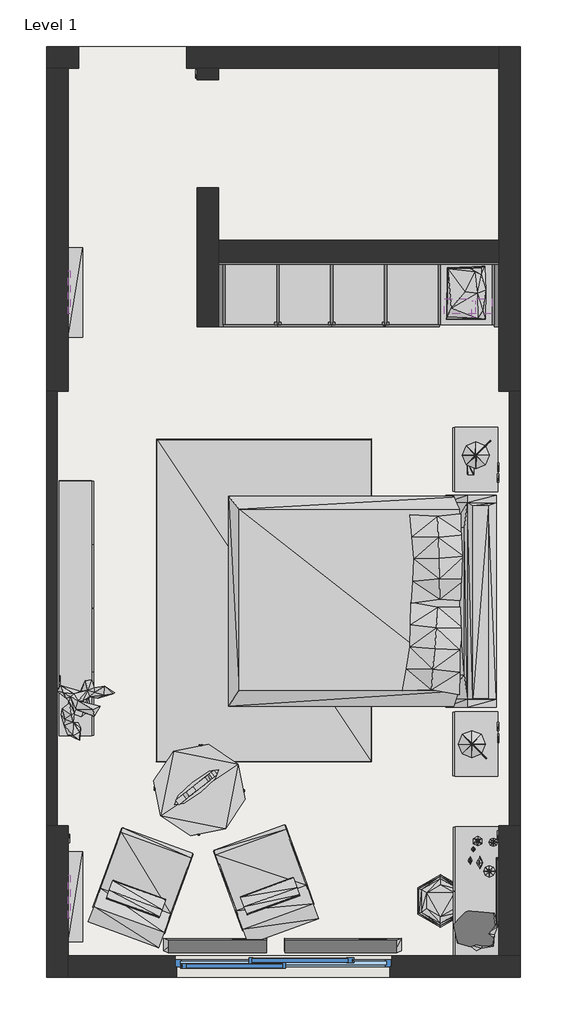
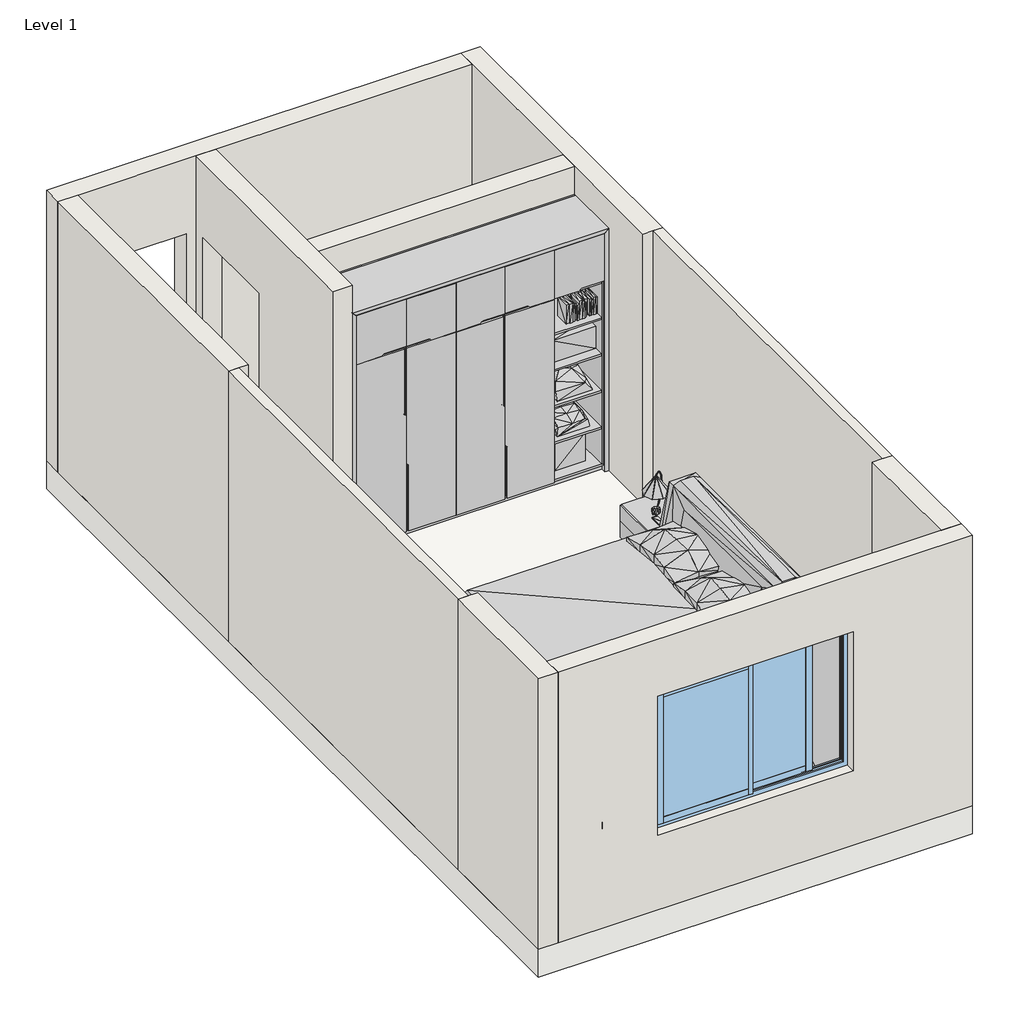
# One storey, incomplete: 38 geographic elements, 10 walls, 2 furniture elements, 1 proxy, 1 slab, 1 window.
"""IFC4 building model written with IfcOpenShell, lengths in millimetres."""

from ifc_helpers import new_model, si_unit, frame, origin, origin_with_axes, place, context, project, spatial, polyline, outline, extrude, faceted_brep, transform, mapped, element, save
from components import generic_models_adb6d911, furniture_1_furniture_1_608239b3, furniture_2_furniture_1_6abcd909, geographic_element_bb5f4fa1, enscape_assetdefinition_bed_08_enscape_assetdefinition_bed_ef56958e, enscape_assetdefinition_books_04_enscape_assetdefinition_30a1759c, enscape_assetdefinition_books_enscape_assetdefinition_books_90869a48, enscape_assetdefinition_creme_tube_02_enscape_099a7565, enscape_assetdefinition_creme_tube_03_enscape_79aa0b1a, enscape_assetdefinition_creme_tube_enscape_assetdefinition_85d8d02e, enscape_assetdefinition_curtain_09_enscape_assetdefinition_daeb34b5, enscape_assetdefinition_heater_enscape_assetdefinition_d009f5ff, enscape_assetdefinition_interior_plant_83_enscape_5eada784, enscape_assetdefinition_interior_plant_90_enscape_fa028396, enscape_assetdefinition_light_switch_enscape_assetdefinition_37d4c2cf, enscape_assetdefinition_lounge_armchair_13_enscape_2bcb44b3, enscape_assetdefinition_pouf_11_enscape_assetdefinition_pouf_35691895, enscape_assetdefinition_power_socket_enscape_assetdefinition_57b8c8f3, enscape_assetdefinition_round_side_table_03_enscape_90ca1cf3, enscape_assetdefinition_rug_05_enscape_assetdefinition_rug_c4f60c79, enscape_assetdefinition_soap_dispenser_enscape_4bf6a539, enscape_assetdefinition_storage_box_03_enscape_0ef3ab0d, enscape_assetdefinition_storage_glass_02_enscape_ec1b0890, enscape_assetdefinition_storage_glass_enscape_05d8ce10, enscape_assetdefinition_table_lamp_09_enscape_425b9ab9, enscape_assetdefinition_throw_04_enscape_assetdefinition_2e475fd9, enscape_assetdefinition_throw_enscape_assetdefinition_throw_fa2a812f, enscape_assetdefinition_wall_frame_03_enscape_afdf1664, enscape_assetdefinition_wall_frame_enscape_assetdefinition_9bfa83ed, window_3ff02e9a

model = new_model("IFC4")

# Units and contexts
model_context = context("Model", 3, world=origin())
ifc_project = project(units=[si_unit("LENGTHUNIT", "METRE", prefix="MILLI")], contexts=[model_context])

# Site, building, storey
site = spatial("IfcSite", under=ifc_project)
building = spatial("IfcBuilding", under=site)
storey = spatial("IfcBuildingStorey", under=building, Name="Level 1", Elevation=0.0)

# Proxy
placement = place(None, origin())
generic_models_shape = generic_models_adb6d911(model_context)
element("IfcBuildingElementProxy", 1, Name="ArcPro Statue : ArcPro Statue", ObjectType="ArcPro Statue : ArcPro Statue", at=placement, inside=storey, context=model_context, shape_type="MappedRepresentation", body=[
    mapped(generic_models_shape, transform((-2013.3540084, -2795.1020364, 349.999994), x_axis=(-0.7850156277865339, -0.6194759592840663, 0.0), y_axis=(0.6194759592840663, -0.7850156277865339, 0.0), z_axis=(0.0, 0.0, 1.0))),
])

# Furniture
furniture_1_furniture_1_shape = furniture_1_furniture_1_608239b3(model_context)
element("IfcFurniture", 2, ObjectType="Furniture 1 : Furniture 1", at=placement, inside=storey, context=model_context, shape_type="MappedRepresentation", body=[
    mapped(furniture_1_furniture_1_shape, transform((0.0, 0.0, 0.0), x_axis=(1.0, 0.0, 0.0), y_axis=(0.0, 1.0, 0.0), z_axis=(0.0, 0.0, 1.0))),
])
furniture_2_furniture_1_shape = furniture_2_furniture_1_6abcd909(model_context)
element("IfcFurniture", 3, ObjectType="Furniture 2 : Furniture 1", at=placement, inside=storey, context=model_context, shape_type="MappedRepresentation", body=[
    mapped(furniture_2_furniture_1_shape, transform((-924.75388, -1865.5708242, 0.0), x_axis=(0.0, -1.0, 0.0), y_axis=(1.0, 0.0, 0.0), z_axis=(0.0, 0.0, 1.0))),
])

# Geographic elements
geographic_element_shape = geographic_element_bb5f4fa1(model_context)
element("IfcGeographicElement", 4, ObjectType="Enscape AssetDefinition - Smartphone : Enscape AssetDefinition - Smartphone", at=placement, inside=storey, context=model_context, shape_type="MappedRepresentation", body=[
    mapped(geographic_element_shape, transform((481.7962743, 125.0174317, 350.0), x_axis=(1.0, 0.0, 0.0), y_axis=(0.0, 1.0, 0.0), z_axis=(0.0, 0.0, 1.0))),
])
enscape_assetdefinition_bed_08_enscape_assetdefinition_bed_shape = enscape_assetdefinition_bed_08_enscape_assetdefinition_bed_ef56958e(model_context)
element("IfcGeographicElement", 5, ObjectType="Enscape AssetDefinition - Bed 08 : Enscape AssetDefinition - Bed 08", at=placement, inside=storey, context=model_context, shape_type="MappedRepresentation", body=[
    mapped(enscape_assetdefinition_bed_08_enscape_assetdefinition_bed_shape, transform((-438.2037257, -1109.9825683, 0.0), x_axis=(0.0, -1.0, 0.0), y_axis=(1.0, 0.0, 0.0), z_axis=(0.0, 0.0, 1.0))),
])
enscape_assetdefinition_books_04_enscape_assetdefinition_shape = enscape_assetdefinition_books_04_enscape_assetdefinition_30a1759c(model_context)
element("IfcGeographicElement", 6, ObjectType="Enscape AssetDefinition - Books 04 : Enscape AssetDefinition - Books 04", at=placement, inside=storey, context=model_context, shape_type="MappedRepresentation", body=[
    mapped(enscape_assetdefinition_books_04_enscape_assetdefinition_shape, transform((459.0166894, 1630.0174317, 1260.0), x_axis=(1.0, 0.0, 0.0), y_axis=(0.0, 1.0, 0.0), z_axis=(0.0, 0.0, 1.0))),
])
enscape_assetdefinition_books_enscape_assetdefinition_books_shape = enscape_assetdefinition_books_enscape_assetdefinition_books_90869a48(model_context)
element("IfcGeographicElement", 7, ObjectType="Enscape AssetDefinition - Books : Enscape AssetDefinition - Books", at=placement, inside=storey, context=model_context, shape_type="MappedRepresentation", body=[
    mapped(enscape_assetdefinition_books_enscape_assetdefinition_books_shape, transform((520.5462743, 1680.0174317, 1649.375), x_axis=(0.0, -1.0, 0.0), y_axis=(1.0, 0.0, 0.0), z_axis=(0.0, 0.0, 1.0))),
])
enscape_assetdefinition_creme_tube_02_enscape_shape = enscape_assetdefinition_creme_tube_02_enscape_099a7565(model_context)
element("IfcGeographicElement", 8, ObjectType="Enscape AssetDefinition - Creme Tube 02 : Enscape AssetDefinition - Creme Tube 02", at=placement, inside=storey, context=model_context, shape_type="MappedRepresentation", body=[
    mapped(enscape_assetdefinition_creme_tube_02_enscape_shape, transform((476.7962743, -3514.9825683, 750.0), x_axis=(0.0, 1.0, 0.0), y_axis=(-1.0, 0.0, 0.0), z_axis=(0.0, 0.0, 1.0))),
])
enscape_assetdefinition_creme_tube_03_enscape_shape = enscape_assetdefinition_creme_tube_03_enscape_79aa0b1a(model_context)
element("IfcGeographicElement", 9, ObjectType="Enscape AssetDefinition - Creme Tube 03 : Enscape AssetDefinition - Creme Tube 03", at=placement, inside=storey, context=model_context, shape_type="MappedRepresentation", body=[
    mapped(enscape_assetdefinition_creme_tube_03_enscape_shape, transform((566.7962743, -3534.9825683, 750.0), x_axis=(0.0, 1.0, 0.0), y_axis=(-1.0, 0.0, 0.0), z_axis=(0.0, 0.0, 1.0))),
])
enscape_assetdefinition_creme_tube_enscape_assetdefinition_shape = enscape_assetdefinition_creme_tube_enscape_assetdefinition_85d8d02e(model_context)
element("IfcGeographicElement", 10, ObjectType="Enscape AssetDefinition - Creme Tube : Enscape AssetDefinition - Creme Tube", at=placement, inside=storey, context=model_context, shape_type="MappedRepresentation", body=[
    mapped(enscape_assetdefinition_creme_tube_enscape_assetdefinition_shape, transform((506.7962743, -3409.9825683, 750.0), x_axis=(0.0, 1.0, 0.0), y_axis=(-1.0, 0.0, 0.0), z_axis=(0.0, 0.0, 1.0))),
])
enscape_assetdefinition_curtain_09_enscape_assetdefinition_shape = enscape_assetdefinition_curtain_09_enscape_assetdefinition_daeb34b5(model_context)
element("IfcGeographicElement", 11, ObjectType="Enscape AssetDefinition - Curtain 09 : Enscape AssetDefinition - Curtain 09", at=placement, inside=storey, context=model_context, shape_type="MappedRepresentation", body=[
    mapped(enscape_assetdefinition_curtain_09_enscape_assetdefinition_shape, transform((-1258.2037257, -4399.9825683, 0.0), x_axis=(-1.0, 0.0, 0.0), y_axis=(0.0, -1.0, 0.0), z_axis=(0.0, 0.0, 1.0))),
])
enscape_assetdefinition_heater_enscape_assetdefinition_shape = enscape_assetdefinition_heater_enscape_assetdefinition_d009f5ff(model_context)
element("IfcGeographicElement", 12, ObjectType="Enscape AssetDefinition - Heater : Enscape AssetDefinition - Heater", at=placement, inside=storey, context=model_context, shape_type="MappedRepresentation", body=[
    mapped(enscape_assetdefinition_heater_enscape_assetdefinition_shape, transform((-3258.2037257, -3849.9825683, 0.0), x_axis=(0.0, 1.0, 0.0), y_axis=(-1.0, 0.0, 0.0), z_axis=(0.0, 0.0, 1.0))),
])
element("IfcGeographicElement", 13, ObjectType="Enscape AssetDefinition - Heater : Enscape AssetDefinition - Heater", at=placement, inside=storey, context=model_context, shape_type="MappedRepresentation", body=[
    mapped(enscape_assetdefinition_heater_enscape_assetdefinition_shape, transform((-3258.2037257, 1760.0174317, 0.0), x_axis=(0.0, 1.0, 0.0), y_axis=(-1.0, 0.0, 0.0), z_axis=(0.0, 0.0, 1.0))),
])
enscape_assetdefinition_interior_plant_83_enscape_shape = enscape_assetdefinition_interior_plant_83_enscape_5eada784(model_context)
element("IfcGeographicElement", 14, ObjectType="Enscape AssetDefinition - Interior Plant 83 : Enscape AssetDefinition - Interior Plant 83", at=placement, inside=storey, context=model_context, shape_type="MappedRepresentation", body=[
    mapped(enscape_assetdefinition_interior_plant_83_enscape_shape, transform((546.7962743, -4169.9825683, 750.0), x_axis=(1.0, 0.0, 0.0), y_axis=(0.0, 1.0, 0.0), z_axis=(0.0, 0.0, 1.0))),
])
enscape_assetdefinition_interior_plant_90_enscape_shape = enscape_assetdefinition_interior_plant_90_enscape_fa028396(model_context)
element("IfcGeographicElement", 15, ObjectType="Enscape AssetDefinition - Interior Plant 90 : Enscape AssetDefinition - Interior Plant 90", at=placement, inside=storey, context=model_context, shape_type="MappedRepresentation", body=[
    mapped(enscape_assetdefinition_interior_plant_90_enscape_shape, transform((-3151.2428895, -2074.2566833, 500.0), x_axis=(0.3665188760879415, 0.9304106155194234, 0.0), y_axis=(-0.9304106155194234, 0.3665188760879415, 0.0), z_axis=(0.0, 0.0, 1.0))),
])
enscape_assetdefinition_light_switch_enscape_assetdefinition_shape = enscape_assetdefinition_light_switch_enscape_assetdefinition_37d4c2cf(model_context)
element("IfcGeographicElement", 16, ObjectType="Enscape AssetDefinition - Light Switch : Enscape AssetDefinition - Light Switch", at=placement, inside=storey, context=model_context, shape_type="MappedRepresentation", body=[
    mapped(enscape_assetdefinition_light_switch_enscape_assetdefinition_shape, transform((741.7962743, -2269.9825683, 450.0), x_axis=(0.0, -1.0, 0.0), y_axis=(1.0, 0.0, 0.0), z_axis=(0.0, 0.0, 1.0))),
])
element("IfcGeographicElement", 17, ObjectType="Enscape AssetDefinition - Light Switch : Enscape AssetDefinition - Light Switch", at=placement, inside=storey, context=model_context, shape_type="MappedRepresentation", body=[
    mapped(enscape_assetdefinition_light_switch_enscape_assetdefinition_shape, transform((741.7962743, 35.0174317, 450.0), x_axis=(0.0, -1.0, 0.0), y_axis=(1.0, 0.0, 0.0), z_axis=(0.0, 0.0, 1.0))),
])
element("IfcGeographicElement", 18, ObjectType="Enscape AssetDefinition - Light Switch : Enscape AssetDefinition - Light Switch", at=placement, inside=storey, context=model_context, shape_type="MappedRepresentation", body=[
    mapped(enscape_assetdefinition_light_switch_enscape_assetdefinition_shape, transform((741.7962743, -3279.9825683, 1100.0), x_axis=(0.0, -1.0, 0.0), y_axis=(1.0, 0.0, 0.0), z_axis=(0.0, 0.0, 1.0))),
])
element("IfcGeographicElement", 19, ObjectType="Enscape AssetDefinition - Light Switch : Enscape AssetDefinition - Light Switch", at=placement, inside=storey, context=model_context, shape_type="MappedRepresentation", body=[
    mapped(enscape_assetdefinition_light_switch_enscape_assetdefinition_shape, transform((-3258.2037257, -3309.9825683, 1100.0), x_axis=(0.0, 1.0, 0.0), y_axis=(-1.0, 0.0, 0.0), z_axis=(0.0, 0.0, 1.0))),
])
element("IfcGeographicElement", 20, ObjectType="Enscape AssetDefinition - Light Switch : Enscape AssetDefinition - Light Switch", at=placement, inside=storey, context=model_context, shape_type="MappedRepresentation", body=[
    mapped(enscape_assetdefinition_light_switch_enscape_assetdefinition_shape, transform((-2058.2037257, 3785.0174317, 1100.0), x_axis=(0.0, -1.0, 0.0), y_axis=(1.0, 0.0, 0.0), z_axis=(0.0, 0.0, 1.0))),
])
enscape_assetdefinition_lounge_armchair_13_enscape_shape = enscape_assetdefinition_lounge_armchair_13_enscape_2bcb44b3(model_context)
element("IfcGeographicElement", 21, ObjectType="Enscape AssetDefinition - Lounge Armchair 13 : Enscape AssetDefinition - Lounge Armchair 13", at=placement, inside=storey, context=model_context, shape_type="MappedRepresentation", body=[
    mapped(enscape_assetdefinition_lounge_armchair_13_enscape_shape, transform((-1419.2454882, -3736.1149737, 0.0), x_axis=(-0.9396926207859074, -0.34202014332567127, 0.0), y_axis=(0.34202014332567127, -0.9396926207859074, 0.0), z_axis=(0.0, 0.0, 1.0))),
])
element("IfcGeographicElement", 22, ObjectType="Enscape AssetDefinition - Lounge Armchair 13 : Enscape AssetDefinition - Lounge Armchair 13", at=placement, inside=storey, context=model_context, shape_type="MappedRepresentation", body=[
    mapped(enscape_assetdefinition_lounge_armchair_13_enscape_shape, transform((-2585.9943385, -3762.5587334, 0.0), x_axis=(-0.9396926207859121, 0.3420201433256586, 0.0), y_axis=(-0.3420201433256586, -0.9396926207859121, 0.0), z_axis=(0.0, 0.0, 1.0))),
])
enscape_assetdefinition_pouf_11_enscape_assetdefinition_pouf_shape = enscape_assetdefinition_pouf_11_enscape_assetdefinition_pouf_35691895(model_context)
element("IfcGeographicElement", 23, ObjectType="Enscape AssetDefinition - Pouf 11 : Enscape AssetDefinition - Pouf 11", at=placement, inside=storey, context=model_context, shape_type="MappedRepresentation", body=[
    mapped(enscape_assetdefinition_pouf_11_enscape_assetdefinition_pouf_shape, transform((201.7962743, -3889.9825683, 0.0), x_axis=(1.0, 0.0, 0.0), y_axis=(0.0, 1.0, 0.0), z_axis=(0.0, 0.0, 1.0))),
])
enscape_assetdefinition_power_socket_enscape_assetdefinition_shape = enscape_assetdefinition_power_socket_enscape_assetdefinition_57b8c8f3(model_context)
element("IfcGeographicElement", 24, ObjectType="Enscape AssetDefinition - Power Socket : Enscape AssetDefinition - Power Socket", at=placement, inside=storey, context=model_context, shape_type="MappedRepresentation", body=[
    mapped(enscape_assetdefinition_power_socket_enscape_assetdefinition_shape, transform((741.7962743, 135.0174317, 450.0), x_axis=(0.0, -1.0, 0.0), y_axis=(1.0, 0.0, 0.0), z_axis=(0.0, 0.0, 1.0))),
])
element("IfcGeographicElement", 25, ObjectType="Enscape AssetDefinition - Power Socket : Enscape AssetDefinition - Power Socket", at=placement, inside=storey, context=model_context, shape_type="MappedRepresentation", body=[
    mapped(enscape_assetdefinition_power_socket_enscape_assetdefinition_shape, transform((741.7962743, -2379.9825683, 450.0), x_axis=(0.0, -1.0, 0.0), y_axis=(1.0, 0.0, 0.0), z_axis=(0.0, 0.0, 1.0))),
])
element("IfcGeographicElement", 26, ObjectType="Enscape AssetDefinition - Power Socket : Enscape AssetDefinition - Power Socket", at=placement, inside=storey, context=model_context, shape_type="MappedRepresentation", body=[
    mapped(enscape_assetdefinition_power_socket_enscape_assetdefinition_shape, transform((741.7962743, -3279.9825683, 300.0), x_axis=(0.0, -1.0, 0.0), y_axis=(1.0, 0.0, 0.0), z_axis=(0.0, 0.0, 1.0))),
])
element("IfcGeographicElement", 27, ObjectType="Enscape AssetDefinition - Power Socket : Enscape AssetDefinition - Power Socket", at=placement, inside=storey, context=model_context, shape_type="MappedRepresentation", body=[
    mapped(enscape_assetdefinition_power_socket_enscape_assetdefinition_shape, transform((-3258.2037257, -3309.9825683, 300.0), x_axis=(0.0, 1.0, 0.0), y_axis=(-1.0, 0.0, 0.0), z_axis=(0.0, 0.0, 1.0))),
])
element("IfcGeographicElement", 28, ObjectType="Enscape AssetDefinition - Power Socket : Enscape AssetDefinition - Power Socket", at=placement, inside=storey, context=model_context, shape_type="MappedRepresentation", body=[
    mapped(enscape_assetdefinition_power_socket_enscape_assetdefinition_shape, transform((-3338.2037257, -1839.9825683, 600.0), x_axis=(0.0, 1.0, 0.0), y_axis=(-1.0, 0.0, 0.0), z_axis=(0.0, 0.0, 1.0))),
])
element("IfcGeographicElement", 29, ObjectType="Enscape AssetDefinition - Power Socket : Enscape AssetDefinition - Power Socket", at=placement, inside=storey, context=model_context, shape_type="MappedRepresentation", body=[
    mapped(enscape_assetdefinition_power_socket_enscape_assetdefinition_shape, transform((-2058.2037257, 3785.0174317, 300.0), x_axis=(0.0, -1.0, 0.0), y_axis=(1.0, 0.0, 0.0), z_axis=(0.0, 0.0, 1.0))),
])
enscape_assetdefinition_round_side_table_03_enscape_shape = enscape_assetdefinition_round_side_table_03_enscape_90ca1cf3(model_context)
element("IfcGeographicElement", 30, ObjectType="Enscape AssetDefinition - Round Side Table 03 : Enscape AssetDefinition - Round Side Table 03", at=placement, inside=storey, context=model_context, shape_type="MappedRepresentation", body=[
    mapped(enscape_assetdefinition_round_side_table_03_enscape_shape, transform((-2038.2037257, -2859.9825683, 0.0), x_axis=(1.0, 0.0, 0.0), y_axis=(0.0, 1.0, 0.0), z_axis=(0.0, 0.0, 1.0))),
])
enscape_assetdefinition_rug_05_enscape_assetdefinition_rug_shape = enscape_assetdefinition_rug_05_enscape_assetdefinition_rug_c4f60c79(model_context)
element("IfcGeographicElement", 31, ObjectType="Enscape AssetDefinition - Rug 05 : Enscape AssetDefinition - Rug 05", at=placement, inside=storey, context=model_context, shape_type="MappedRepresentation", body=[
    mapped(enscape_assetdefinition_rug_05_enscape_assetdefinition_rug_shape, transform((-1438.2037257, -1099.9825683, 0.0), x_axis=(1.0, 0.0, 0.0), y_axis=(0.0, 1.0, 0.0), z_axis=(0.0, 0.0, 1.0))),
])
enscape_assetdefinition_soap_dispenser_enscape_shape = enscape_assetdefinition_soap_dispenser_enscape_4bf6a539(model_context)
element("IfcGeographicElement", 32, ObjectType="Enscape AssetDefinition - Soap Dispenser : Enscape AssetDefinition - Soap Dispenser", at=placement, inside=storey, context=model_context, shape_type="MappedRepresentation", body=[
    mapped(enscape_assetdefinition_soap_dispenser_enscape_shape, transform((546.7962743, -3334.9825683, 750.0), x_axis=(1.0, 0.0, 0.0), y_axis=(0.0, 1.0, 0.0), z_axis=(0.0, 0.0, 1.0))),
])
enscape_assetdefinition_storage_box_03_enscape_shape = enscape_assetdefinition_storage_box_03_enscape_0ef3ab0d(model_context)
element("IfcGeographicElement", 33, ObjectType="Enscape AssetDefinition - Storage Box 03 : Enscape AssetDefinition - Storage Box 03", at=placement, inside=storey, context=model_context, shape_type="MappedRepresentation", body=[
    mapped(enscape_assetdefinition_storage_box_03_enscape_shape, transform((429.4290075, 1725.1143096, 79.0), x_axis=(1.0, 0.0, 0.0), y_axis=(0.0, 1.0, 0.0), z_axis=(0.0, 0.0, 1.0))),
])
enscape_assetdefinition_storage_glass_02_enscape_shape = enscape_assetdefinition_storage_glass_02_enscape_ec1b0890(model_context)
element("IfcGeographicElement", 34, ObjectType="Enscape AssetDefinition - Storage Glass 02 : Enscape AssetDefinition - Storage Glass 02", at=placement, inside=storey, context=model_context, shape_type="MappedRepresentation", body=[
    mapped(enscape_assetdefinition_storage_glass_02_enscape_shape, transform((691.7962743, -3344.9825683, 750.0), x_axis=(1.0, 0.0, 0.0), y_axis=(0.0, 1.0, 0.0), z_axis=(0.0, 0.0, 1.0))),
])
enscape_assetdefinition_storage_glass_enscape_shape = enscape_assetdefinition_storage_glass_enscape_05d8ce10(model_context)
element("IfcGeographicElement", 35, ObjectType="Enscape AssetDefinition - Storage Glass : Enscape AssetDefinition - Storage Glass", at=placement, inside=storey, context=model_context, shape_type="MappedRepresentation", body=[
    mapped(enscape_assetdefinition_storage_glass_enscape_shape, transform((656.7962743, -3614.9825683, 750.0), x_axis=(1.0, 0.0, 0.0), y_axis=(0.0, 1.0, 0.0), z_axis=(0.0, 0.0, 1.0))),
])
enscape_assetdefinition_table_lamp_09_enscape_shape = enscape_assetdefinition_table_lamp_09_enscape_425b9ab9(model_context)
element("IfcGeographicElement", 36, ObjectType="Enscape AssetDefinition - Table Lamp 09 : Enscape AssetDefinition - Table Lamp 09", at=placement, inside=storey, context=model_context, shape_type="MappedRepresentation", body=[
    mapped(enscape_assetdefinition_table_lamp_09_enscape_shape, transform((530.6692906, 246.0477355, 350.0), x_axis=(0.7071067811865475, 0.7071067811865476, 0.0), y_axis=(-0.7071067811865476, 0.7071067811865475, 0.0), z_axis=(0.0, 0.0, 1.0))),
])
element("IfcGeographicElement", 37, ObjectType="Enscape AssetDefinition - Table Lamp 09 : Enscape AssetDefinition - Table Lamp 09", at=placement, inside=storey, context=model_context, shape_type="MappedRepresentation", body=[
    mapped(enscape_assetdefinition_table_lamp_09_enscape_shape, transform((495.0596251, -2433.6326389, 350.0), x_axis=(0.7071067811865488, -0.7071067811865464, 0.0), y_axis=(0.7071067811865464, 0.7071067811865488, 0.0), z_axis=(0.0, 0.0, 1.0))),
])
enscape_assetdefinition_throw_04_enscape_assetdefinition_shape = enscape_assetdefinition_throw_04_enscape_assetdefinition_2e475fd9(model_context)
element("IfcGeographicElement", 38, ObjectType="Enscape AssetDefinition - Throw 04 : Enscape AssetDefinition - Throw 04", at=placement, inside=storey, context=model_context, shape_type="MappedRepresentation", body=[
    mapped(enscape_assetdefinition_throw_04_enscape_assetdefinition_shape, transform((429.4290075, 1760.9089589, 480.0), x_axis=(1.0, 0.0, 0.0), y_axis=(0.0, 1.0, 0.0), z_axis=(0.0, 0.0, 1.0))),
])
enscape_assetdefinition_throw_enscape_assetdefinition_throw_shape = enscape_assetdefinition_throw_enscape_assetdefinition_throw_fa2a812f(model_context)
element("IfcGeographicElement", 39, ObjectType="Enscape AssetDefinition - Throw : Enscape AssetDefinition - Throw", at=placement, inside=storey, context=model_context, shape_type="MappedRepresentation", body=[
    mapped(enscape_assetdefinition_throw_enscape_assetdefinition_throw_shape, transform((429.4290075, 1760.9089589, 870.0), x_axis=(1.0, 0.0, 0.0), y_axis=(0.0, 1.0, 0.0), z_axis=(0.0, 0.0, 1.0))),
])
enscape_assetdefinition_wall_frame_03_enscape_shape = enscape_assetdefinition_wall_frame_03_enscape_afdf1664(model_context)
element("IfcGeographicElement", 40, ObjectType="Enscape AssetDefinition - Wall Frame 03 : Enscape AssetDefinition - Wall Frame 03", at=placement, inside=storey, context=model_context, shape_type="MappedRepresentation", body=[
    mapped(enscape_assetdefinition_wall_frame_03_enscape_shape, transform((-3258.2037257, 1760.0174317, 1200.0), x_axis=(0.0, 1.0, 0.0), y_axis=(-1.0, 0.0, 0.0), z_axis=(0.0, 0.0, 1.0))),
])
enscape_assetdefinition_wall_frame_enscape_assetdefinition_shape = enscape_assetdefinition_wall_frame_enscape_assetdefinition_9bfa83ed(model_context)
element("IfcGeographicElement", 41, ObjectType="Enscape AssetDefinition - Wall Frame : Enscape AssetDefinition - Wall Frame", at=placement, inside=storey, context=model_context, shape_type="MappedRepresentation", body=[
    mapped(enscape_assetdefinition_wall_frame_enscape_assetdefinition_shape, transform((-3258.2037257, -3849.9825683, 1200.0), x_axis=(0.0, 1.0, 0.0), y_axis=(-1.0, 0.0, 0.0), z_axis=(0.0, 0.0, 1.0))),
])

# Slab
element("IfcSlab", 42, ObjectType="Generic 300mm", at=placement, inside=storey, context=model_context, shape_type="SweptSolid", body=[
    extrude(outline(polyline([(941.7962743, 4040.0174317), (941.7962743, -4599.9825683), (-3458.2037257, -4599.9825683), (-3458.2037257, 4040.0174317), (941.7962743, 4040.0174317)])), frame((0.0, 0.0, -300.0), z_axis=(0.0, 0.0, 1.0), x_axis=(1.0, 0.0, 0.0)), (0.0, 0.0, 1.0), 300.0),
])

# Walls
element("IfcWall", 43, ObjectType="Generic - 100mm", at=placement, inside=storey, context=model_context, shape_type="SweptSolid", body=[
    extrude(outline(polyline([(841.7962743, -3189.9825683), (841.7962743, 840.0174317), (941.7962743, 840.0174317), (941.7962743, -3189.9825683), (841.7962743, -3189.9825683)])), origin_with_axes(), (0.0, 0.0, 1.0), 2900.0),
])
element("IfcWall", 44, ObjectType="Generic - 100mm", at=placement, inside=storey, context=model_context, shape_type="SweptSolid", body=[
    extrude(outline(polyline([(-3358.2037257, 840.0174317), (-3358.2037257, -3189.9825683), (-3458.2037257, -3189.9825683), (-3458.2037257, 840.0174317), (-3358.2037257, 840.0174317)])), origin_with_axes(), (0.0, 0.0, 1.0), 2900.0),
])
element("IfcWall", 45, ObjectType="Generic - 200mm", at=placement, inside=storey, context=model_context, shape_type="Brep", body=[
    faceted_brep([(-3458.2037257, 3840.0174317, 2900.0), (-3458.2037257, 3840.0174317, 0.0), (-3258.2037257, 3840.0174317, 0.0), (-3158.2037257, 3840.0174317, 0.0), (-3158.2037257, 3840.0174317, 2100.0), (-2158.2037257, 3840.0174317, 2100.0), (-2158.2037257, 3840.0174317, 0.0), (-2058.2037257, 3840.0174317, 0.0), (-1858.2037257, 3840.0174317, 0.0), (741.7962743, 3840.0174317, 0.0), (741.7962743, 3840.0174317, 2900.0), (-1858.2037257, 3840.0174317, 2900.0), (-2058.2037257, 3840.0174317, 2900.0), (-3258.2037257, 3840.0174317, 2900.0), (-3458.2037257, 4040.0174317, 0.0), (-3458.2037257, 4040.0174317, 2900.0), (741.7962743, 4040.0174317, 2900.0), (741.7962743, 4040.0174317, 0.0), (-2158.2037257, 4040.0174317, 0.0), (-2158.2037257, 4040.0174317, 2100.0), (-3158.2037257, 4040.0174317, 2100.0), (-3158.2037257, 4040.0174317, 0.0)], [[[0, 1, 2, 3, 4, 5, 6, 7, 8, 9, 10, 11, 12, 13]], [[14, 15, 16, 17, 18, 19, 20, 21]], [[1, 14, 21, 3, 2]], [[17, 9, 8, 7, 6, 18]], [[1, 0, 15, 14]], [[10, 9, 17, 16]], [[0, 13, 12, 11, 10, 16, 15]], [[20, 4, 3, 21]], [[4, 20, 19, 5]], [[5, 19, 18, 6]]]),
])
element("IfcWall", 46, ObjectType="Generic - 200mm", at=placement, inside=storey, context=model_context, shape_type="Brep", body=[
    faceted_brep([(-3258.2037257, -4599.9825683, 2900.0), (-3258.2037257, -4599.9825683, 0.0), (-3258.2037257, -4399.9825683, 0.0), (-3258.2037257, -3189.9825683, 0.0), (-3258.2037257, -3189.9825683, 100.0), (-3258.2037257, -3189.9825683, 2200.0), (-3258.2037257, -3189.9825683, 2900.0), (-3258.2037257, -4399.9825683, 2900.0), (-3458.2037257, -3189.9825683, 0.0), (-3458.2037257, -4599.9825683, 0.0), (-3458.2037257, -4599.9825683, 2900.0), (-3458.2037257, -3189.9825683, 2900.0), (-3358.2037257, -3189.9825683, 0.0), (-3348.2037257, -3189.9825683, 0.0), (-3329.2037257, -3189.9825683, 0.0), (-3328.2037257, -3189.9825683, 0.0), (-3358.2037257, -3189.9825683, 2900.0)], [[[0, 1, 2, 3, 4, 5, 6, 7]], [[8, 9, 10, 11]], [[9, 8, 12, 13, 14, 15, 3, 2, 1]], [[8, 11, 16, 6, 5, 4, 3, 15, 14, 13, 12]], [[1, 0, 10, 9]], [[0, 7, 6, 16, 11, 10]]]),
])
element("IfcWall", 47, ObjectType="Generic - 200mm", at=placement, inside=storey, context=model_context, shape_type="Brep", body=[
    faceted_brep([(941.7962743, -4399.9825683, 0.0), (741.7962743, -4399.9825683, 0.0), (-3258.2037257, -4399.9825683, 0.0), (-3258.2037257, -4399.9825683, 2900.0), (741.7962743, -4399.9825683, 2900.0), (941.7962743, -4399.9825683, 2900.0), (-251.2037257, -4399.9825683, 2307.0), (-2265.2037257, -4399.9825683, 2307.0), (-2265.2037257, -4399.9825683, 800.0), (-251.2037257, -4399.9825683, 800.0), (941.7962743, -4599.9825683, 0.0), (941.7962743, -4599.9825683, 2900.0), (-3258.2037257, -4599.9825683, 2900.0), (-3258.2037257, -4599.9825683, 0.0), (-268.2037257, -4599.9825683, 800.0), (-2248.2037257, -4599.9825683, 800.0), (-2248.2037257, -4599.9825683, 2290.0), (-268.2037257, -4599.9825683, 2290.0), (-251.2037257, -4499.9825683, 2307.0), (-2265.2037257, -4499.9825683, 2307.0), (-2265.2037257, -4499.9825683, 800.0), (-2248.2037257, -4499.9825683, 800.0), (-268.2037257, -4499.9825683, 800.0), (-251.2037257, -4499.9825683, 800.0), (-268.2037257, -4499.9825683, 2290.0), (-2248.2037257, -4499.9825683, 2290.0)], [[[0, 1, 2, 3, 4, 5], [6, 7, 8, 9]], [[10, 11, 12, 13], [14, 15, 16, 17]], [[2, 1, 0, 10, 13]], [[0, 5, 11, 10]], [[3, 2, 13, 12]], [[5, 4, 3, 12, 11]], [[18, 19, 7, 6]], [[8, 20, 21, 15, 14, 22, 23, 9]], [[19, 20, 8, 7]], [[19, 18, 23, 22, 24, 25, 21, 20]], [[23, 18, 6, 9]], [[24, 17, 16, 25]], [[25, 16, 15, 21]], [[17, 24, 22, 14]]]),
])
element("IfcWall", 48, ObjectType="Generic - 200mm", at=placement, inside=storey, context=model_context, shape_type="Brep", body=[
    faceted_brep([(741.7962743, 4040.0174317, 0.0), (741.7962743, 3840.0174317, 0.0), (741.7962743, 2240.0174317, 0.0), (741.7962743, 2040.0174317, 0.0), (741.7962743, 840.0174317, 0.0), (741.7962743, 840.0174317, 999.0), (741.7962743, 840.0174317, 2200.0), (741.7962743, 840.0174317, 2900.0), (741.7962743, 2040.0174317, 2900.0), (741.7962743, 2240.0174317, 2900.0), (741.7962743, 3840.0174317, 2900.0), (741.7962743, 4040.0174317, 2900.0), (941.7962743, 840.0174317, 0.0), (941.7962743, 4040.0174317, 0.0), (941.7962743, 4040.0174317, 2900.0), (941.7962743, 840.0174317, 2900.0), (841.7962743, 840.0174317, 0.0), (761.7962743, 840.0174317, 0.0), (841.7962743, 840.0174317, 2900.0)], [[[0, 1, 2, 3, 4, 5, 6, 7, 8, 9, 10, 11]], [[12, 13, 14, 15]], [[4, 3, 2, 1, 0, 13, 12, 16, 17]], [[7, 6, 5, 4, 17, 16, 12, 15, 18]], [[0, 11, 14, 13]], [[11, 10, 9, 8, 7, 18, 15, 14]]]),
])
element("IfcWall", 49, ObjectType="Generic - 200mm", at=placement, inside=storey, context=model_context, shape_type="SweptSolid", body=[
    extrude(outline(polyline([(-1858.2037257, 2240.0174317), (741.7962743, 2240.0174317), (741.7962743, 2040.0174317), (-1858.2037257, 2040.0174317), (-1858.2037257, 2240.0174317)])), origin_with_axes(), (0.0, 0.0, 1.0), 2900.0),
])
element("IfcWall", 50, ObjectType="Generic - 200mm", at=placement, inside=storey, context=model_context, shape_type="Brep", body=[
    faceted_brep([(-1858.2037257, 3840.0174317, 0.0), (-1858.2037257, 3840.0174317, 2900.0), (-1858.2037257, 2240.0174317, 2900.0), (-1858.2037257, 2040.0174317, 2900.0), (-1858.2037257, 1440.0174317, 2900.0), (-1858.2037257, 1440.0174317, 100.0), (-1858.2037257, 1440.0174317, 0.0), (-1858.2037257, 2040.0174317, 0.0), (-1858.2037257, 2240.0174317, 0.0), (-1858.2037257, 2730.0174317, 0.0), (-1858.2037257, 2730.0174317, 2100.0), (-1858.2037257, 3730.0174317, 2100.0), (-1858.2037257, 3730.0174317, 0.0), (-2058.2037257, 1440.0174317, 2900.0), (-2058.2037257, 3840.0174317, 2900.0), (-2058.2037257, 3840.0174317, 100.0), (-2058.2037257, 3840.0174317, 0.0), (-2058.2037257, 3730.0174317, 0.0), (-2058.2037257, 3730.0174317, 100.0), (-2058.2037257, 3730.0174317, 2100.0), (-2058.2037257, 2730.0174317, 2100.0), (-2058.2037257, 2730.0174317, 100.0), (-2058.2037257, 2730.0174317, 0.0), (-2058.2037257, 1440.0174317, 0.0), (-2058.2037257, 1440.0174317, 100.0)], [[[0, 1, 2, 3, 4, 5, 6, 7, 8, 9, 10, 11, 12]], [[13, 14, 15, 16, 17, 18, 19, 20, 21, 22, 23, 24]], [[6, 23, 22, 9, 8, 7]], [[16, 0, 12, 17]], [[23, 6, 5, 4, 13, 24]], [[1, 0, 16, 15, 14]], [[4, 3, 2, 1, 14, 13]], [[11, 19, 18, 17, 12]], [[19, 11, 10, 20]], [[20, 10, 9, 22, 21]]]),
])
element("IfcWall", 51, ObjectType="Generic - 200mm", at=placement, inside=storey, context=model_context, shape_type="Brep", body=[
    faceted_brep([(-3258.2037257, 840.0174317, 0.0), (-3258.2037257, 3840.0174317, 0.0), (-3258.2037257, 3840.0174317, 100.0), (-3258.2037257, 3840.0174317, 2900.0), (-3258.2037257, 840.0174317, 2900.0), (-3258.2037257, 840.0174317, 2200.0), (-3258.2037257, 840.0174317, 100.0), (-3458.2037257, 3840.0174317, 0.0), (-3458.2037257, 840.0174317, 0.0), (-3458.2037257, 840.0174317, 2900.0), (-3458.2037257, 3840.0174317, 2900.0), (-3328.2037257, 840.0174317, 0.0), (-3329.2037257, 840.0174317, 0.0), (-3348.2037257, 840.0174317, 0.0), (-3358.2037257, 840.0174317, 0.0), (-3358.2037257, 840.0174317, 2900.0)], [[[0, 1, 2, 3, 4, 5, 6]], [[7, 8, 9, 10]], [[1, 0, 11, 12, 13, 14, 8, 7]], [[9, 8, 14, 13, 12, 11, 0, 6, 5, 4, 15]], [[1, 7, 10, 3, 2]], [[4, 3, 10, 9, 15]]]),
])
element("IfcWall", 52, ObjectType="Generic - 200mm", at=placement, inside=storey, context=model_context, shape_type="Brep", body=[
    faceted_brep([(741.7962743, -3189.9825683, 0.0), (741.7962743, -4399.9825683, 0.0), (741.7962743, -4399.9825683, 2900.0), (741.7962743, -3189.9825683, 2900.0), (741.7962743, -3189.9825683, 2200.0), (741.7962743, -3189.9825683, 999.0), (941.7962743, -4399.9825683, 0.0), (941.7962743, -3189.9825683, 0.0), (941.7962743, -3189.9825683, 2900.0), (941.7962743, -4399.9825683, 2900.0), (761.7962743, -3189.9825683, 0.0), (841.7962743, -3189.9825683, 0.0), (841.7962743, -3189.9825683, 2900.0)], [[[0, 1, 2, 3, 4, 5]], [[6, 7, 8, 9]], [[1, 0, 10, 11, 7, 6]], [[0, 5, 4, 3, 12, 8, 7, 11, 10]], [[2, 1, 6, 9]], [[3, 2, 9, 8, 12]]]),
])

# Window
window_shape = window_3ff02e9a(model_context)
element("IfcWindow", 53, ObjectType="Domal_Slide TB65_Win_1 Vent Opening + Fix_Family : Domal_Slide TB65_Win_1 Vent Opening + Fix_Family", at=placement, inside=storey, context=model_context, shape_type="MappedRepresentation", body=[
    mapped(window_shape, transform((-1258.2037257, -4509.9825683, -400.0), x_axis=(-1.0, 0.0, 0.0), y_axis=(0.0, -1.0, 0.0), z_axis=(0.0, 0.0, 1.0))),
])

save(model, "model.ifc")
